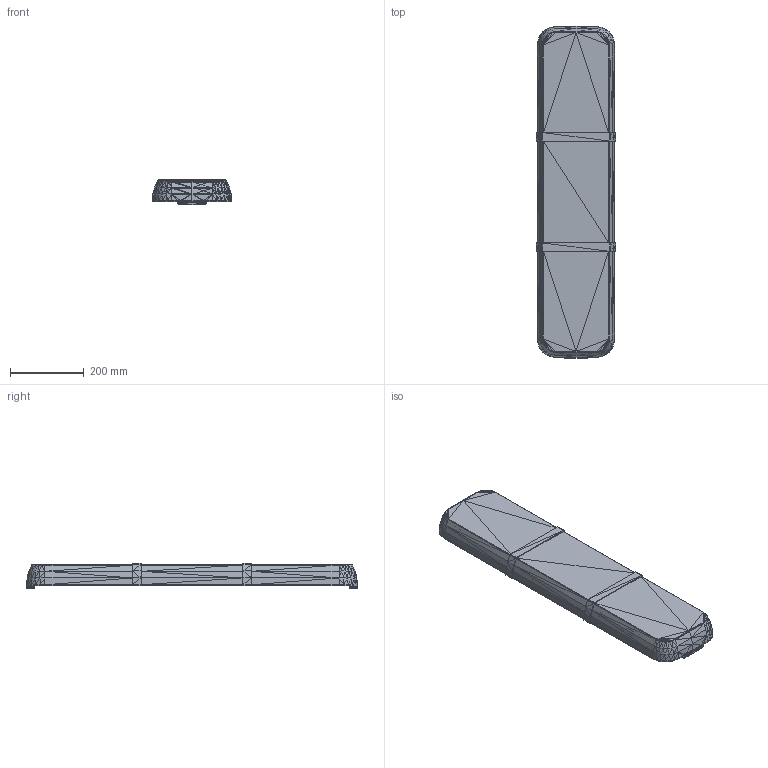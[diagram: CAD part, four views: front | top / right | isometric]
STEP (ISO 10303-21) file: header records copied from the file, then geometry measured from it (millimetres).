
FILE_DESCRIPTION(('FreeCAD Model'),'2;1');
FILE_NAME('H:/a_nauka/osoby_prywatne/06_trzebinia/2021/12marca/optima60-bp-90cm.step','2021-03-12T17:18:32',( 'Author'),(''),'Open CASCADE STEP processor 7.2','FreeCAD','Unknown' );
FILE_SCHEMA(('AUTOMOTIVE_DESIGN { 1 0 10303 214 1 1 1 1 }'));
Products named in the file (1): OPTIMA60_BP_90cm001
Bounding box: 216 x 903 x 68.5 mm (x, y, z)
Surface area: 1554752.2 mm2 (no closed solid volume)
Topology: 0 solids, 5 shells, 9762 faces, 14644 edges, 4515 vertices
Faces by surface type: plane 9762
Entity records: 365528 total; most frequent: CARTESIAN_POINT 72875, DIRECTION 48847, LINE 29321, VECTOR 29321, ORIENTED_EDGE 29290, PCURVE 29290, DEFINITIONAL_REPRESENTATION 29290, EDGE_CURVE 14650
